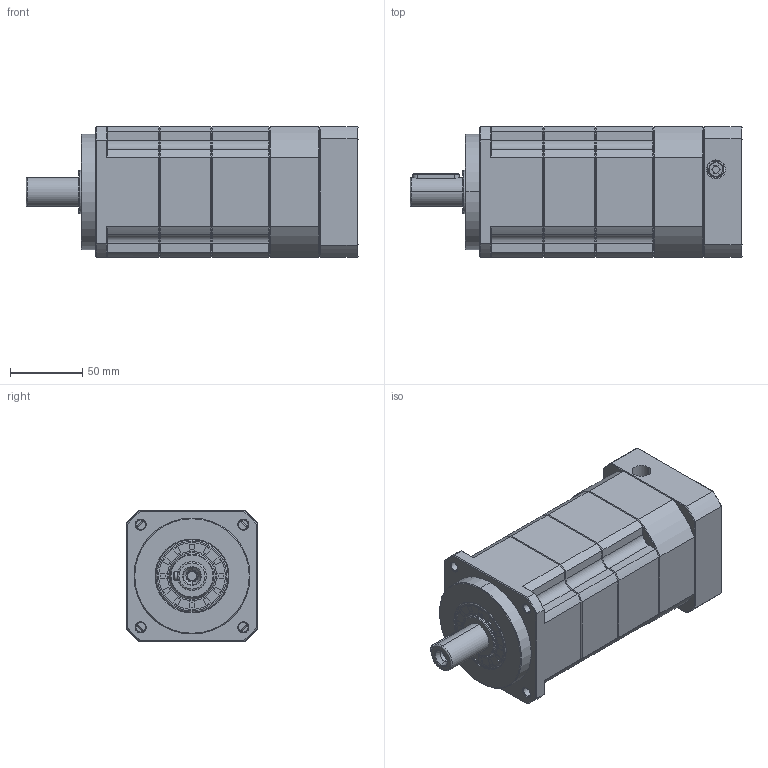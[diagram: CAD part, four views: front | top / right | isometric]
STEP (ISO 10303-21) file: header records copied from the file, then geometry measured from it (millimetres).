
FILE_DESCRIPTION (( 'STEP AP214' ), '1' );
FILE_NAME ('ZPB090-D20-L3-P1-19-70-90-M6.step', '2024-06-07T18:17:51', ( 'Windows 蚚誧' ), ( 'Organization' ), 'SwSTEP 2.0', 'SolidWorks 2016', '' );
FILE_SCHEMA (( 'AUTOMOTIVE_DESIGN' ));
Length unit declared in the file: millimetre
Products named in the file (1): ZPB090-D20-L3-P1-19-70-90-M6
Bounding box: 229 x 90 x 90 mm (x, y, z)
Surface area: 102563.8 mm2 (no closed solid volume)
Topology: 0 solids, 36 shells, 1959 faces, 5131 edges, 3235 vertices
Faces by surface type: plane 1008, bspline 388, cone 315, cylinder 246, torus 2
Full cylindrical faces by diameter (mm): 6.72 x1
Entity records: 98211 total; most frequent: CARTESIAN_POINT 48422, ORIENTED_EDGE 10212, DIRECTION 8000, EDGE_CURVE 5126, LINE 3350, VECTOR 3350, VERTEX_POINT 3233, AXIS2_PLACEMENT_3D 2325
